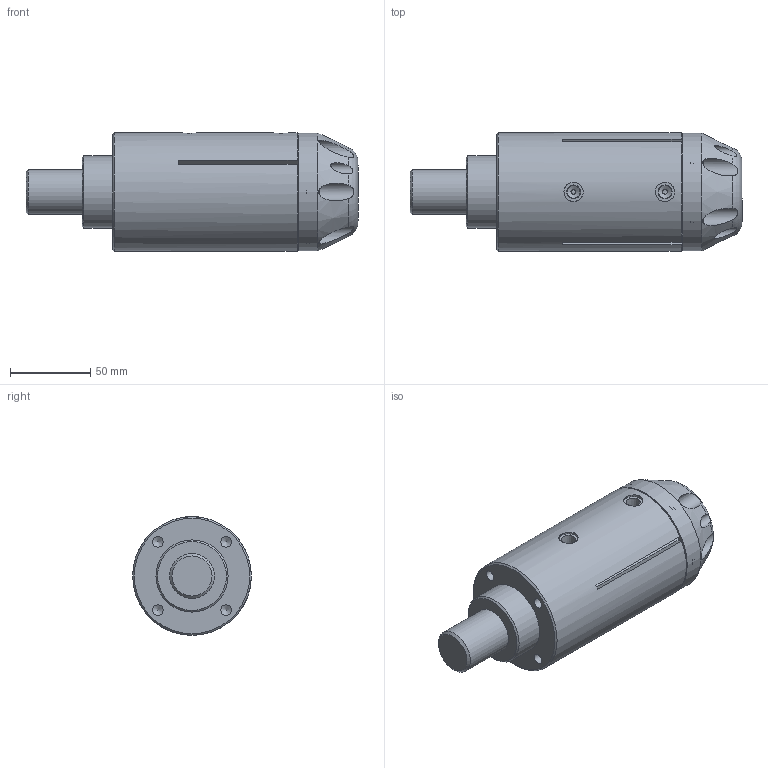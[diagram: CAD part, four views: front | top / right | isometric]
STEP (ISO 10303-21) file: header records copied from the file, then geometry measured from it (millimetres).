
FILE_DESCRIPTION(/* description */ (''),/* implementation_level */ '2;1');
FILE_NAME(/* name */ 'D:\NextGen\CD0023-MLC\3DCAD\MLC-LOCKOUT-20190105.stp',/* time_stamp */ '2019-01-05T06:57:21-05:00',/* author */ ('gskreft'),/* organization */ (''),/* preprocessor_version */ 'ST-DEVELOPER v16.13',/* originating_system */ 'Autodesk Inventor 2018',/* authorisation */ '');
FILE_SCHEMA (('CONFIG_CONTROL_DESIGN'));
Length unit declared in the file: inch
Products named in the file (3): MLC-LOCKOUT-20190105; CD0023-D003; MLC-LOCKOUT-ASM
Assembly tree (2 placements, depth 2):
  MLC-LOCKOUT-20190105
    CD0023-D003
    MLC-LOCKOUT-ASM
Bounding box: 207 x 74 x 74 mm (x, y, z)
Volume: 587618.2 mm3; surface area: 101721.1 mm2
Topology: 15 solids, 15 shells, 195 faces, 438 edges, 287 vertices
Faces by surface type: plane 98, cylinder 61, cone 35, torus 1
Full cylindrical faces by diameter (mm): 4.917 x6, 6 x6, 6.5 x12, 6.647 x4, 7 x2, 7.95 x2, 10 x6, 10.8 x6, 11 x6, 12 x2, 28 x2, 44.95 x1, 50 x2, 73.5 x1, 74 x1
Entity records: 5462 total; most frequent: CARTESIAN_POINT 1274, DIRECTION 830, ORIENTED_EDGE 606, AXIS2_PLACEMENT_3D 351, EDGE_LOOP 336, EDGE_CURVE 303, VERTEX_POINT 245, STYLED_ITEM 204
